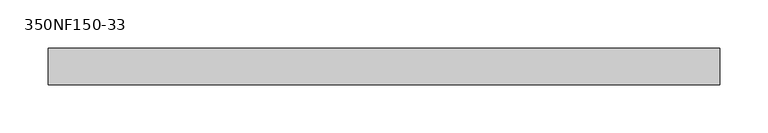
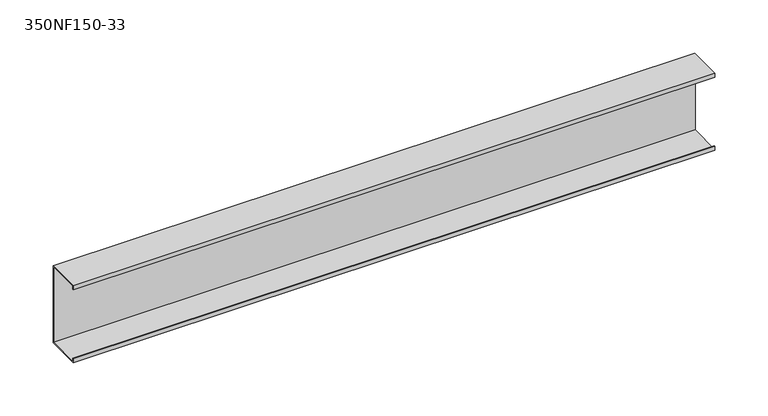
"""IFC4 building model written with IfcOpenShell, lengths in millimetres: beam geometry, BIMSF-SSMA-S : 350NF150-33."""

from ifc_helpers import new_model, si_unit, frame, origin, place, context, project, spatial, polyline, outline, extrude, source, transform, mapped, element, save


def beam_350nf150_33_0b0e94d4(model_context):
    return source(origin(), model_context, "Body", "SweptSolid", [
        extrude(outline(polyline([(19.05, 44.45), (19.05, -44.45), (-19.05, -44.45), (-19.05, -39.6748), (-18.1676842, -39.6748), (-18.1676842, -43.5676842), (18.1676842, -43.5676842), (18.1676842, 43.5676842), (-18.1676842, 43.5676842), (-18.1676842, 39.6748), (-19.05, 39.6748), (-19.05, 44.45), (19.05, 44.45)])), frame((-349.25, 0.0, 0.0), z_axis=(1.0, 0.0, 0.0), x_axis=(0.0, 1.0, 0.0)), (0.0, 0.0, 1.0), 698.5),
    ])


if __name__ == "__main__":
    model = new_model("IFC4")
    model_context = context("Model", 3, world=origin())
    ifc_project = project(units=[si_unit("LENGTHUNIT", "METRE", prefix="MILLI")], contexts=[model_context])
    site = spatial("IfcSite", under=ifc_project)
    building = spatial("IfcBuilding", under=site)
    placement = place(None, origin())
    beam_350nf150_33_shape = beam_350nf150_33_0b0e94d4(model_context)
    element("IfcBeam", 1, ObjectType="BIMSF-SSMA-S : 350NF150-33", at=placement, inside=building, context=model_context, shape_type="MappedRepresentation", body=[
        mapped(beam_350nf150_33_shape, transform((0.0, 0.0, 0.0), x_axis=(1.0, 0.0, 0.0), y_axis=(0.0, 1.0, 0.0), z_axis=(0.0, 0.0, 1.0))),
    ])
    save(model, "model.ifc")
